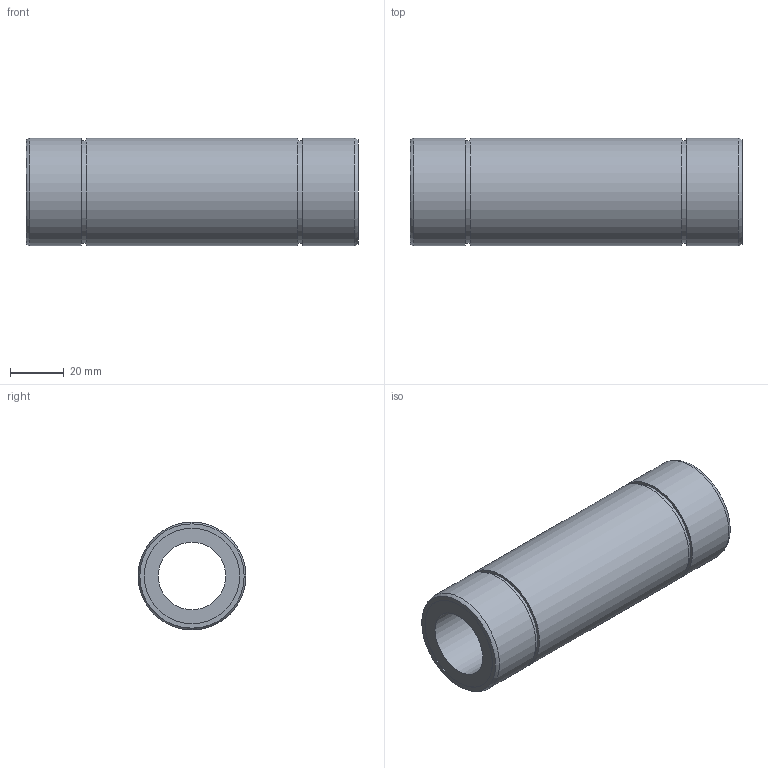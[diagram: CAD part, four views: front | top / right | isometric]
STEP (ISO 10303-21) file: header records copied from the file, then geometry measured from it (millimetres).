
FILE_DESCRIPTION((''),'2;1');
FILE_NAME('D:\製品 (図面)\カタログ用3D\メンテナンスフリー関連\STEP形式\LD-MF\LD25MF.stp','2010-06-01T15:36:39',('Tsuchiya'),(''),'Autodesk Inventor 10','Autodesk Inventor 10','');
FILE_SCHEMA(('AUTOMOTIVE_DESIGN { 1 0 10303 214 1 1 1 1 }'));
Length unit declared in the file: millimetre
Products named in the file (1): LD25MF
Bounding box: 123 x 40 x 40 mm (x, y, z)
Volume: 93539.3 mm3; surface area: 26990.6 mm2
Topology: 1 solids, 1 shells, 18 faces, 28 edges, 18 vertices
Faces by surface type: plane 8, cylinder 8, torus 2
Full cylindrical faces by diameter (mm): 25 x1, 35.3 x2, 38 x2, 40 x3
Entity records: 391 total; most frequent: DIRECTION 74, CARTESIAN_POINT 55, AXIS2_PLACEMENT_3D 37, ORIENTED_EDGE 36, EDGE_LOOP 36, VERTEX_POINT 18, CIRCLE 18, EDGE_CURVE 18
